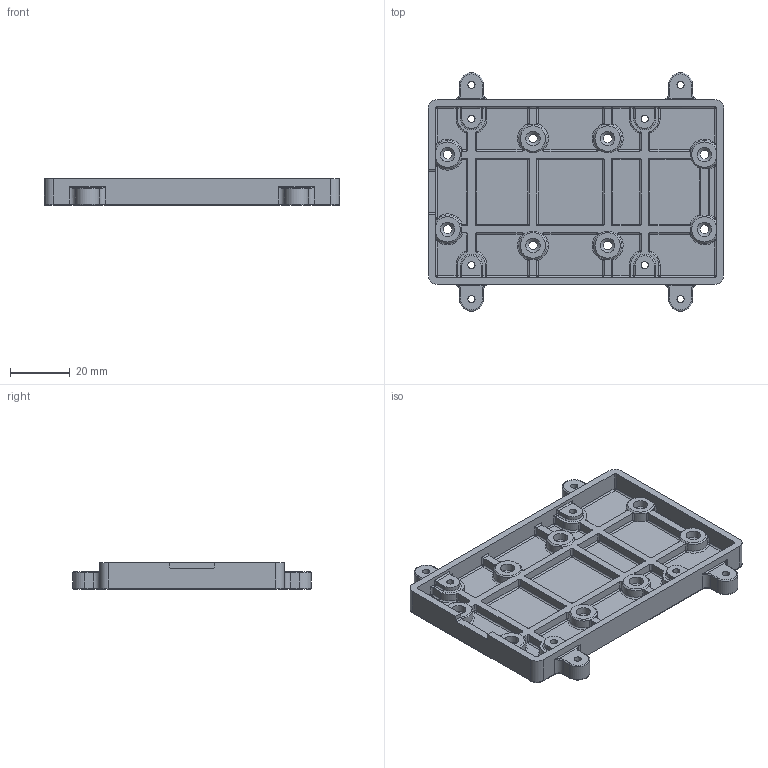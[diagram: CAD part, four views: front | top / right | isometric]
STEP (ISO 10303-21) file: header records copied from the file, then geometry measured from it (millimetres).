
FILE_DESCRIPTION(/* description */ (''),/* implementation_level */ '2;1');
FILE_NAME(/* name */ 'C:/Users/Prashant/Desktop/RTD enclosure/3D Printing/STEP files/Bottom.step',/* time_stamp */ '2021-07-26T15:03:05+06:00',/* author */ (''),/* organization */ (''),/* preprocessor_version */ 'ST-DEVELOPER v18.1',/* originating_system */ 'Autodesk Translation Framework v10.9.0.1377',/* authorisation */ '');
FILE_SCHEMA (('AUTOMOTIVE_DESIGN { 1 0 10303 214 3 1 1 }'));
Length unit declared in the file: millimetre
Products named in the file (1): Bottom
Bounding box: 98.8 x 79.8 x 9 mm (x, y, z)
Volume: 25661.4 mm3; surface area: 20739.5 mm2
Topology: 1 solids, 1 shells, 587 faces, 1341 edges, 751 vertices
Faces by surface type: cylinder 291, plane 121, sphere 90, torus 57, cone 20, bspline 8
Full cylindrical faces by diameter (mm): 2.4 x8, 3 x8, 4.8 x12
Entity records: 16766 total; most frequent: CARTESIAN_POINT 3239, DIRECTION 3127, ORIENTED_EDGE 2666, EDGE_CURVE 1333, AXIS2_PLACEMENT_3D 1257, VERTEX_POINT 751, CIRCLE 650, EDGE_LOOP 622
